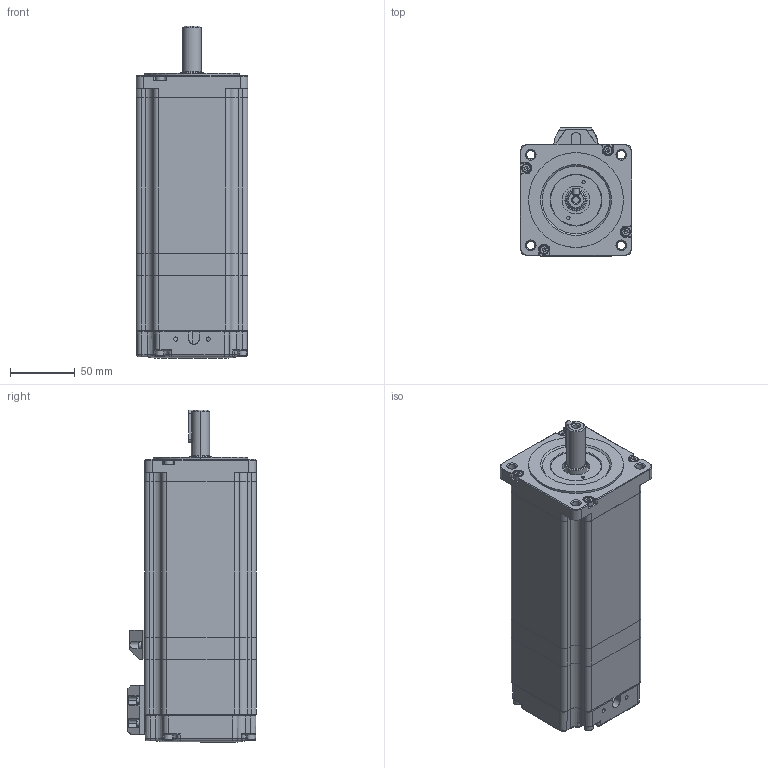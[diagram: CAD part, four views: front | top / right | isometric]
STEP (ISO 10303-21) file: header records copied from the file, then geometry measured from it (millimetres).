
FILE_DESCRIPTION (( 'STEP AP203' ), '1' );
FILE_NAME ('86J18156EC-1000-LS-SCG.STEP', '2019-12-17T02:20:00', ( 'USER-' ), ( 'MS' ), 'SwSTEP 2.0', 'SolidWorks 2015', '' );
FILE_SCHEMA (( 'CONFIG_CONTROL_DESIGN' ));
Length unit declared in the file: millimetre
Products named in the file (11): 86价陬42mm遵60; 86侜督萇儂綴傷裔21.5mm; 86x17上盖14x38键槽5x25法兰73x1.8(两小孔）宽60mm; 5x25邧埴瑩; 压线栓（双线）38x34x13; 压线栓（单线）30x22.5x11.5; hexagon socket head cap screws gb_GB_FASTENER_SCREWS_HSHCS M2.5X4-N; 86儂旯120mm; hexagon socket head cap screws gb_GB_FASTENER_SCREWS_HSHCS M4X6-N; 86綴裔17mm; 86J18156EC-1000-LS-SCG
Assembly tree (22 placements, depth 2):
  86J18156EC-1000-LS-SCG
    86儂旯120mm
    86綴裔17mm
    86价陬42mm遵60
    86侜督萇儂綴傷裔21.5mm
    86x17上盖14x38键槽5x25法兰73x1.8(两小孔）宽60mm
    5x25邧埴瑩
    压线栓（双线）38x34x13
    压线栓（单线）30x22.5x11.5
    hexagon socket head cap screws gb_GB_FASTENER_SCREWS_HSHCS M2.5X4-N  x6
    hexagon socket head cap screws gb_GB_FASTENER_SCREWS_HSHCS M4X6-N  x8
Bounding box: 86 x 99 x 255.5 mm (x, y, z)
Volume: 916575.6 mm3; surface area: 187398 mm2
Topology: 22 solids, 26 shells, 1105 faces, 2662 edges, 1612 vertices
Faces by surface type: plane 451, cylinder 333, cone 174, bspline 84, torus 58, sphere 5
Entity records: 30456 total; most frequent: CARTESIAN_POINT 10572, ORIENTED_EDGE 3944, DIRECTION 3702, EDGE_CURVE 1972, AXIS2_PLACEMENT_3D 1372, VERTEX_POINT 1216, VECTOR 958, LINE 958
